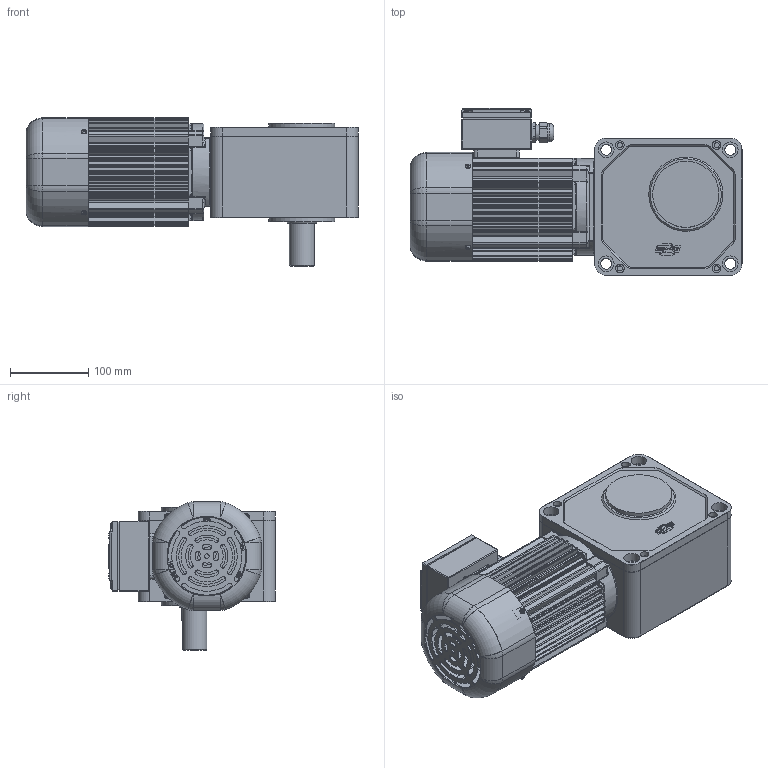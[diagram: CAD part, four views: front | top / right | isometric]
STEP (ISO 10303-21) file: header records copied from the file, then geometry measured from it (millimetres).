
FILE_DESCRIPTION(/* description */ (''),/* implementation_level */ '2;1');
FILE_NAME(/* name */ 'Z:\동력 3D 파일\PCS32R_0.4kW_Brake_3D.stp',/* time_stamp */ '2021-11-09T11:37:27+09:00',/* author */ ('jaebok'),/* organization */ (''),/* preprocessor_version */ 'ST-DEVELOPER v18.1',/* originating_system */ 'Autodesk Inventor 2022',/* authorisation */ '');
FILE_SCHEMA (('AUTOMOTIVE_DESIGN { 1 0 10303 214 3 1 1 }'));
Products named in the file (1): 부품58
Bounding box: 425.5 x 214 x 190.2 mm (x, y, z)
Volume: 2844126 mm3; surface area: 717672.5 mm2
Topology: 2 solids, 18 shells, 2017 faces, 5125 edges, 3203 vertices
Faces by surface type: plane 899, cylinder 780, torus 114, cone 103, bspline 93, sphere 28
Full cylindrical faces by diameter (mm): 1.5 x2, 2 x4, 3 x8, 3.242 x5, 3.25 x1, 3.3 x4, 3.6 x4, 3.8 x3, 4 x25, 4.2 x8, 5 x19, 5.8 x2, 5.9 x3, 6 x18, 6.4 x1, 6.5 x10, 6.647 x1, 7 x12, 7.9 x6, 8 x3, 8.5 x1, 8.7 x1, 10 x1, 11 x4, 12.5 x1, 14 x4, 15 x1, 18 x1, 20 x14, 21 x1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
Entity records: 68134 total; most frequent: CARTESIAN_POINT 17151, DIRECTION 10712, ORIENTED_EDGE 10124, EDGE_CURVE 5062, AXIS2_PLACEMENT_3D 4107, VERTEX_POINT 3200, LINE 2498, VECTOR 2498
